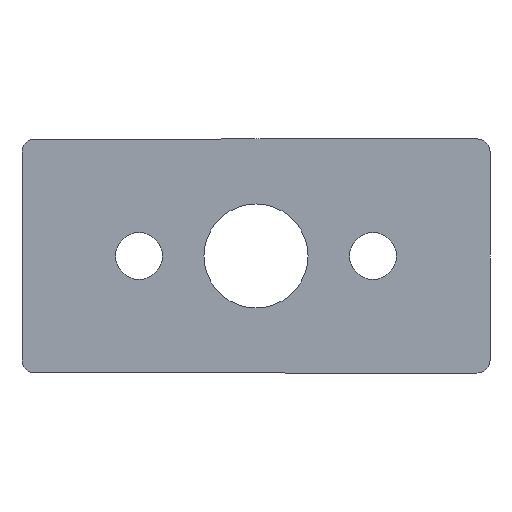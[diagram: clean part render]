
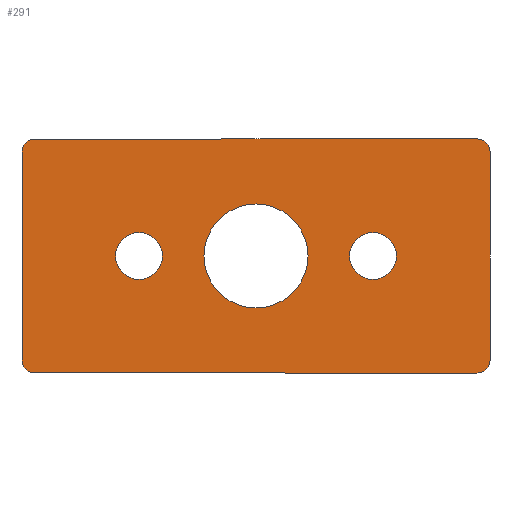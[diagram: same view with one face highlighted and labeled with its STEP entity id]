
A CAD part, front view. The second image highlights one B-rep face of the part: STEP entity #291.
In plain terms, the highlighted planar face has unit normal (0, -1, 0).
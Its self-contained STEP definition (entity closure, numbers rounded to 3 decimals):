
#18=FACE_BOUND('',#58,.T.);
#19=FACE_BOUND('',#59,.T.);
#20=FACE_BOUND('',#60,.T.);
#24=PLANE('',#342);
#37=FACE_OUTER_BOUND('',#57,.T.);
#57=EDGE_LOOP('',(#229,#230,#231,#232,#233,#234,#235,#236));
#58=EDGE_LOOP('',(#237));
#59=EDGE_LOOP('',(#238));
#60=EDGE_LOOP('',(#239));
#82=LINE('',#501,#103);
#83=LINE('',#505,#104);
#84=LINE('',#509,#105);
#85=LINE('',#513,#106);
#103=VECTOR('',#410,1000.);
#104=VECTOR('',#413,1000.);
#105=VECTOR('',#416,1000.);
#106=VECTOR('',#419,1000.);
#117=CIRCLE('',#326,4.5);
#121=CIRCLE('',#332,4.5);
#124=CIRCLE('',#336,10.);
#129=CIRCLE('',#343,2.5);
#130=CIRCLE('',#344,2.5);
#131=CIRCLE('',#345,2.5);
#132=CIRCLE('',#346,2.5);
#135=VERTEX_POINT('',#458);
#139=VERTEX_POINT('',#470);
#142=VERTEX_POINT('',#478);
#151=VERTEX_POINT('',#499);
#152=VERTEX_POINT('',#500);
#153=VERTEX_POINT('',#502);
#154=VERTEX_POINT('',#504);
#155=VERTEX_POINT('',#506);
#156=VERTEX_POINT('',#508);
#157=VERTEX_POINT('',#510);
#158=VERTEX_POINT('',#512);
#162=EDGE_CURVE('',#135,#135,#117,.T.);
#168=EDGE_CURVE('',#139,#139,#121,.T.);
#173=EDGE_CURVE('',#142,#142,#124,.T.);
#182=EDGE_CURVE('',#151,#152,#82,.T.);
#183=EDGE_CURVE('',#151,#153,#129,.T.);
#184=EDGE_CURVE('',#154,#153,#83,.T.);
#185=EDGE_CURVE('',#154,#155,#130,.T.);
#186=EDGE_CURVE('',#156,#155,#84,.T.);
#187=EDGE_CURVE('',#156,#157,#131,.T.);
#188=EDGE_CURVE('',#158,#157,#85,.T.);
#189=EDGE_CURVE('',#158,#152,#132,.T.);
#229=ORIENTED_EDGE('',*,*,#182,.F.);
#230=ORIENTED_EDGE('',*,*,#183,.T.);
#231=ORIENTED_EDGE('',*,*,#184,.F.);
#232=ORIENTED_EDGE('',*,*,#185,.T.);
#233=ORIENTED_EDGE('',*,*,#186,.F.);
#234=ORIENTED_EDGE('',*,*,#187,.T.);
#235=ORIENTED_EDGE('',*,*,#188,.F.);
#236=ORIENTED_EDGE('',*,*,#189,.T.);
#237=ORIENTED_EDGE('',*,*,#173,.T.);
#238=ORIENTED_EDGE('',*,*,#162,.F.);
#239=ORIENTED_EDGE('',*,*,#168,.F.);
#291=ADVANCED_FACE('',(#37,#18,#19,#20),#24,.T.);
#326=AXIS2_PLACEMENT_3D('',#459,#368,#369);
#332=AXIS2_PLACEMENT_3D('',#471,#382,#383);
#336=AXIS2_PLACEMENT_3D('',#480,#392,#393);
#342=AXIS2_PLACEMENT_3D('',#498,#408,#409);
#343=AXIS2_PLACEMENT_3D('',#503,#411,#412);
#344=AXIS2_PLACEMENT_3D('',#507,#414,#415);
#345=AXIS2_PLACEMENT_3D('',#511,#417,#418);
#346=AXIS2_PLACEMENT_3D('',#514,#420,#421);
#368=DIRECTION('center_axis',(0.,-1.,0.));
#369=DIRECTION('ref_axis',(0.,0.,-1.));
#382=DIRECTION('center_axis',(0.,-1.,0.));
#383=DIRECTION('ref_axis',(0.,0.,-1.));
#392=DIRECTION('center_axis',(0.,1.,0.));
#393=DIRECTION('ref_axis',(0.,0.,1.));
#408=DIRECTION('center_axis',(0.,-1.,0.));
#409=DIRECTION('ref_axis',(0.,0.,-1.));
#410=DIRECTION('',(0.,0.,1.));
#411=DIRECTION('center_axis',(0.,-1.,0.));
#412=DIRECTION('ref_axis',(0.,0.,-1.));
#413=DIRECTION('',(-1.,0.,0.));
#414=DIRECTION('center_axis',(0.,-1.,0.));
#415=DIRECTION('ref_axis',(0.,0.,-1.));
#416=DIRECTION('',(0.,0.,-1.));
#417=DIRECTION('center_axis',(0.,-1.,0.));
#418=DIRECTION('ref_axis',(0.,0.,-1.));
#419=DIRECTION('',(1.,0.,0.));
#420=DIRECTION('center_axis',(0.,-1.,0.));
#421=DIRECTION('ref_axis',(0.,0.,-1.));
#458=CARTESIAN_POINT('',(-22.5,0.,-4.5));
#459=CARTESIAN_POINT('Origin',(-22.5,0.,0.));
#470=CARTESIAN_POINT('',(22.5,0.,-4.5));
#471=CARTESIAN_POINT('Origin',(22.5,0.,0.));
#478=CARTESIAN_POINT('',(0.,0.,10.));
#480=CARTESIAN_POINT('Origin',(0.,0.,0.));
#498=CARTESIAN_POINT('Origin',(-45.,0.,-22.5));
#499=CARTESIAN_POINT('',(-45.,0.,-20.));
#500=CARTESIAN_POINT('',(-45.,0.,20.));
#501=CARTESIAN_POINT('',(-45.,0.,22.5));
#502=CARTESIAN_POINT('',(-42.5,0.,-22.5));
#503=CARTESIAN_POINT('Origin',(-42.5,0.,-20.));
#504=CARTESIAN_POINT('',(42.5,0.,-22.5));
#505=CARTESIAN_POINT('',(-45.,0.,-22.5));
#506=CARTESIAN_POINT('',(45.,0.,-20.));
#507=CARTESIAN_POINT('Origin',(42.5,0.,-20.));
#508=CARTESIAN_POINT('',(45.,0.,20.));
#509=CARTESIAN_POINT('',(45.,0.,22.5));
#510=CARTESIAN_POINT('',(42.5,0.,22.5));
#511=CARTESIAN_POINT('Origin',(42.5,0.,20.));
#512=CARTESIAN_POINT('',(-42.5,0.,22.5));
#513=CARTESIAN_POINT('',(-45.,0.,22.5));
#514=CARTESIAN_POINT('Origin',(-42.5,0.,20.));
